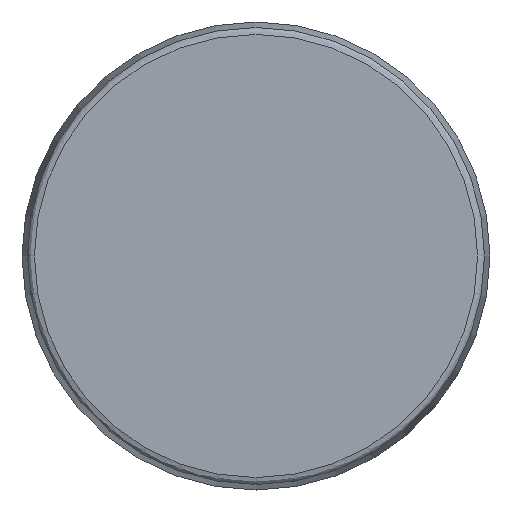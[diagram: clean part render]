
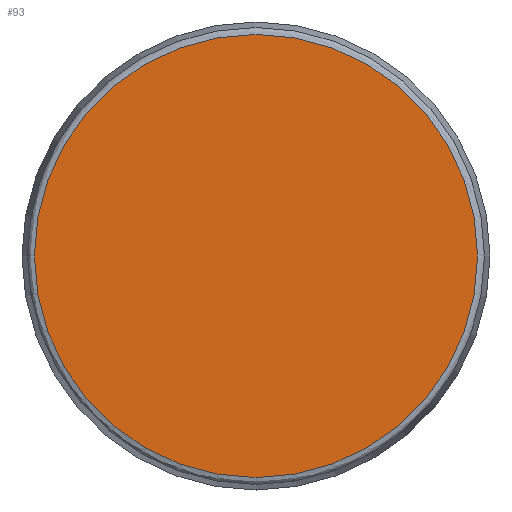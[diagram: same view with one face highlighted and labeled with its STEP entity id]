
A CAD part, left-side view. The second image highlights one B-rep face of the part: STEP entity #93.
In plain terms, the highlighted planar face has unit normal (-1, 0, 0).
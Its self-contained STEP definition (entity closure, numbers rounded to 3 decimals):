
#55=CARTESIAN_POINT('',(-459.448,-488.109,36.189));
#56=VERTEX_POINT('',#55);
#64=CARTESIAN_POINT('',(-459.448,-488.109,-39.552));
#65=VERTEX_POINT('',#64);
#66=CARTESIAN_POINT('',(-459.448,-488.109,-1.681));
#67=DIRECTION('',(-1.0,0.0,0.));
#68=DIRECTION('',(0.,0.0,1.0));
#69=AXIS2_PLACEMENT_3D('',#66,#67,#68);
#70=CIRCLE('',#69,37.87);
#71=EDGE_CURVE('',#65,#56,#70,.T.);
#73=CARTESIAN_POINT('',(-459.448,-488.109,-1.681));
#74=DIRECTION('',(-1.0,0.0,0.));
#75=DIRECTION('',(0.,0.0,1.0));
#76=AXIS2_PLACEMENT_3D('',#73,#74,#75);
#77=CIRCLE('',#76,37.87);
#78=EDGE_CURVE('',#56,#65,#77,.T.);
#84=CARTESIAN_POINT('',(-459.448,-563.85,74.059));
#85=DIRECTION('',(-1.0,0.0,0.0));
#86=DIRECTION('',(0.0,1.0,0.0));
#87=AXIS2_PLACEMENT_3D('',#84,#85,#86);
#88=PLANE('',#87);
#89=ORIENTED_EDGE('',*,*,#78,.T.);
#90=ORIENTED_EDGE('',*,*,#71,.T.);
#91=EDGE_LOOP('',(#89,#90));
#92=FACE_OUTER_BOUND('',#91,.T.);
#93=ADVANCED_FACE('',(#92),#88,.T.);
